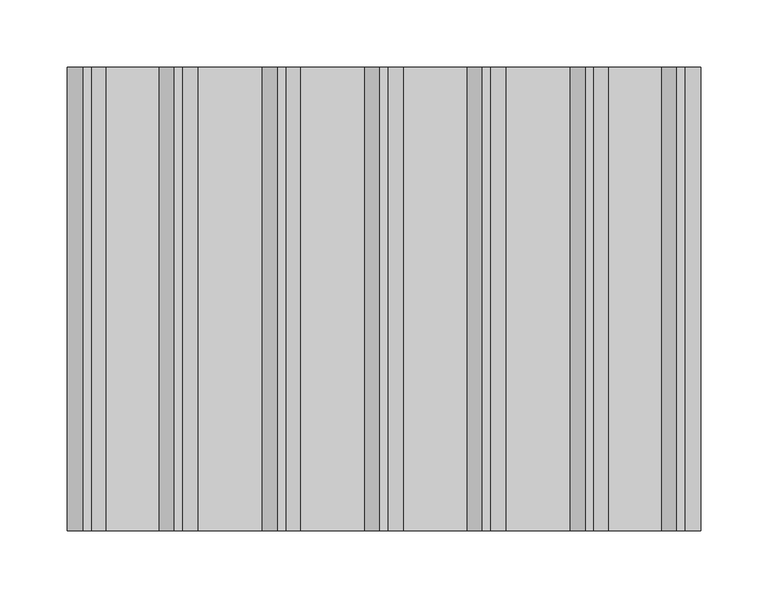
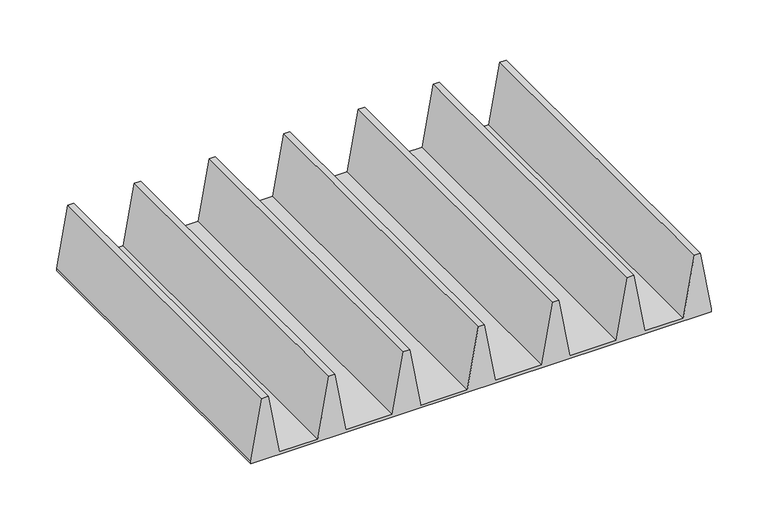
"""IFC4 building model written with IfcOpenShell, lengths in millimetres: furniture geometry."""

from ifc_helpers import new_model, si_unit, frame, origin, place, context, project, spatial, polyline, outline, extrude, source, transform, mapped, element, save


def furniture_118398c2(model_context):
    return source(origin(), model_context, "Body", "SweptSolid", [
        extrude(outline(polyline([(1377.8507812, -234.8826517), (1377.8507812, 235.0173483), (1380.8769531, 235.0173483), (1444.5257813, 223.7943426), (1444.5257813, 217.4443426), (1380.8769531, 206.221337), (1380.8769531, 166.865354), (1444.5257813, 155.6423483), (1444.5257813, 149.2923483), (1380.8769531, 138.0693426), (1380.8769531, 90.665354), (1444.5257813, 79.4423483), (1444.5257813, 73.0923483), (1380.8769531, 61.8693426), (1380.8769531, 14.465354), (1444.5257813, 3.2423483), (1444.5257813, -3.1076517), (1380.8769531, -14.3306574), (1380.8769531, -61.734646), (1444.5257813, -72.9576517), (1444.5257813, -79.3076517), (1380.8769531, -90.5306574), (1380.8769531, -137.934646), (1444.5257813, -149.1576517), (1444.5257813, -155.5076517), (1380.8769531, -166.7306574), (1380.8769531, -206.0866403), (1444.5257813, -217.309646), (1444.5257813, -223.659646), (1380.8769531, -234.8826517), (1377.8507812, -234.8826517)])), frame((0.0, -171.831, 0.0), z_axis=(0.0, 1.0, 0.0), x_axis=(0.0, 0.0, 1.0)), (0.0, 0.0, 1.0), 343.662),
    ])


if __name__ == "__main__":
    model = new_model("IFC4")
    model_context = context("Model", 3, world=origin())
    ifc_project = project(units=[si_unit("LENGTHUNIT", "METRE", prefix="MILLI")], contexts=[model_context])
    site = spatial("IfcSite", under=ifc_project)
    building = spatial("IfcBuilding", under=site)
    placement = place(None, origin())
    furniture_shape = furniture_118398c2(model_context)
    element("IfcFurniture", 1, ObjectType="HermanMiller_CoStruc_CO242_Subdivider Vane : 2 5/8\"Hx13 3/4\"D x 18 1/2\"W", at=placement, inside=building, context=model_context, shape_type="MappedRepresentation", body=[
        mapped(furniture_shape, transform((0.0, 0.0, 0.0), x_axis=(1.0, 0.0, 0.0), y_axis=(0.0, 1.0, 0.0), z_axis=(0.0, 0.0, 1.0))),
    ])
    save(model, "model.ifc")
